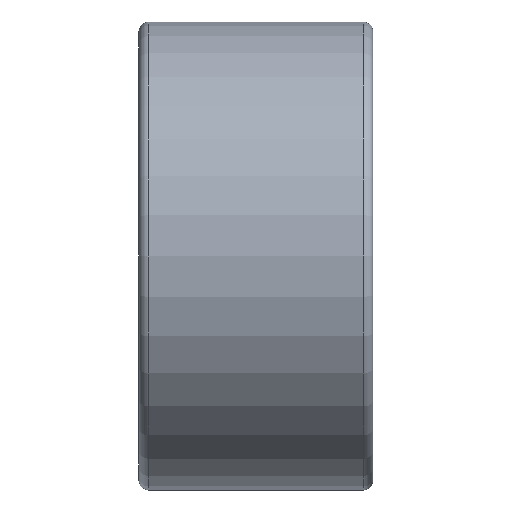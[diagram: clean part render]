
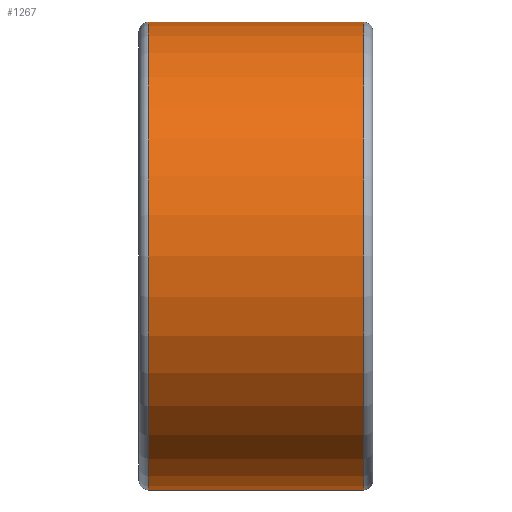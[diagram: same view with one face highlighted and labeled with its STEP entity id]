
A CAD part, front view. The second image highlights one B-rep face of the part: STEP entity #1267.
In plain terms, the highlighted cylindrical face has radius 2.5 mm (diameter 5 mm), a partial arc.
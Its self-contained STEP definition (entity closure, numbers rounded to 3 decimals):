
#328=DIRECTION('',(-1.,0.,0.));
#329=VECTOR('',#328,2.3);
#330=CARTESIAN_POINT('',(1.15,0.,2.5));
#331=LINE('',#330,#329);
#367=CARTESIAN_POINT('',(1.15,0.,0.));
#368=DIRECTION('',(-1.,0.,0.));
#369=DIRECTION('',(0.,0.,-1.));
#370=AXIS2_PLACEMENT_3D('',#367,#368,#369);
#372=DIRECTION('',(-1.,0.,0.));
#373=VECTOR('',#372,2.3);
#374=CARTESIAN_POINT('',(1.15,0.,-2.5));
#375=LINE('',#374,#373);
#381=CARTESIAN_POINT('',(-1.15,0.,0.));
#382=DIRECTION('',(1.,0.,0.));
#383=DIRECTION('',(0.,0.,1.));
#384=AXIS2_PLACEMENT_3D('',#381,#382,#383);
#865=CARTESIAN_POINT('',(1.15,0.,-2.5));
#867=VERTEX_POINT('',#865);
#868=CARTESIAN_POINT('',(1.15,0.,2.5));
#869=VERTEX_POINT('',#868);
#1024=CARTESIAN_POINT('',(-1.15,0.,-2.5));
#1025=CARTESIAN_POINT('',(-1.15,0.,2.5));
#1026=VERTEX_POINT('',#1024);
#1027=VERTEX_POINT('',#1025);
#1255=CARTESIAN_POINT('',(0.,0.,0.));
#1256=DIRECTION('',(-1.,0.,0.));
#1257=DIRECTION('',(0.,0.,1.));
#1258=AXIS2_PLACEMENT_3D('',#1255,#1256,#1257);
#1259=CYLINDRICAL_SURFACE('',#1258,2.5);
#1260=ORIENTED_EDGE('',*,*,#1205,.T.);
#1262=ORIENTED_EDGE('',*,*,#1261,.F.);
#1263=ORIENTED_EDGE('',*,*,#1202,.F.);
#1264=ORIENTED_EDGE('',*,*,#1248,.F.);
#1265=EDGE_LOOP('',(#1260,#1262,#1263,#1264));
#1266=FACE_OUTER_BOUND('',#1265,.F.);
#1267=ADVANCED_FACE('',(#1266),#1259,.T.);
#371=CIRCLE('',#370,2.5);
#385=CIRCLE('',#384,2.5);
#1202=EDGE_CURVE('',#869,#1027,#331,.T.);
#1205=EDGE_CURVE('',#867,#1026,#375,.T.);
#1248=EDGE_CURVE('',#867,#869,#371,.T.);
#1261=EDGE_CURVE('',#1027,#1026,#385,.T.);
